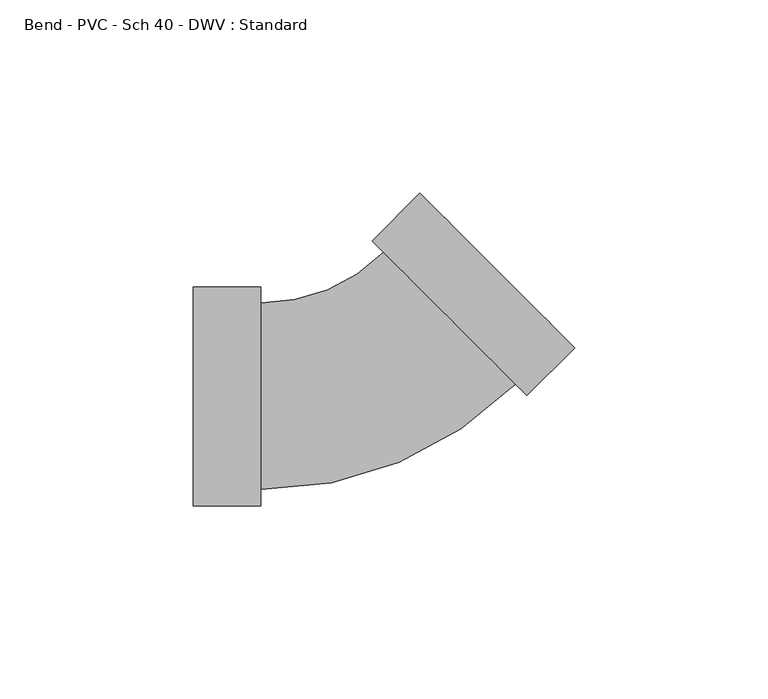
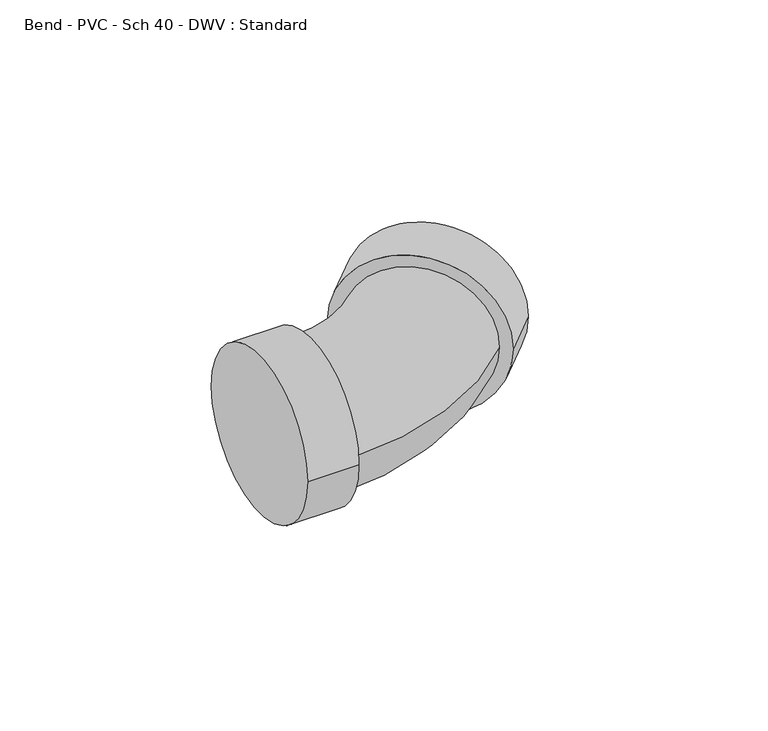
"""IFC4 building model written with IfcOpenShell, lengths in millimetres: pipe fitting geometry, Bend - PVC - Sch 40 - DWV : Standard."""

from ifc_helpers import new_model, si_unit, point, frame, origin, place, context, project, spatial, circle_curve, ellipse_curve, trimmed, source, transform, mapped, element, save
from ifc_brep_helpers import plane_surface, cylinder_surface, revolved_surface, advanced_brep


def bend_pvc_sch_40_dwv_standard_d9dd063d(model_context):
    return source(origin(), model_context, "Body", "AdvancedBrep", [
        advanced_brep(
        [(-46.0248, -28.2829, 0.0), (-46.0248, 28.2829, 0.0), (-28.575, -28.2829, 0.0), (-28.575, 28.2829, 0.0), (-28.575, -24.13, 0.0), (-28.575, 24.13, 0.0), (3.1436839, 37.2680128, 0.0), (37.268113, 3.1424953, 0.0), (40.2046099, 0.2059048, 0.0), (0.207187, 40.2046034, 0.0), (52.5436786, 12.5445799, 0.0), (12.5462557, 52.5432785, 0.0)],
        [
            (0, 1, circle_curve(frame((-46.0248, 0.0, 0.0), z_axis=(-1.0, 0.0, 0.0), x_axis=(0.0, 1.0, 0.0)), 28.2829)),
            (1, 0, circle_curve(frame((-46.0248, 0.0, 0.0), z_axis=(-1.0, 0.0, 0.0), x_axis=(0.0, 1.0, 0.0)), 28.2829)),
            (2, 3, circle_curve(frame((-28.575, 0.0, 0.0), z_axis=(1.0, 0.0, 0.0), x_axis=(0.0, 1.0, 0.0)), 28.2829)),
            (3, 2, circle_curve(frame((-28.575, 0.0, 0.0), z_axis=(1.0, 0.0, 0.0), x_axis=(0.0, 1.0, 0.0)), 28.2829)),
            (4, 5, circle_curve(frame((-28.575, 0.0, 0.0), z_axis=(-1.0, 0.0, 0.0), x_axis=(0.0, 1.0, 0.0)), 24.13)),
            (5, 4, circle_curve(frame((-28.575, 0.0, 0.0), z_axis=(-1.0, 0.0, 0.0), x_axis=(0.0, 1.0, 0.0)), 24.13)),
            (0, 2),
            (3, 1),
            (6, 5, circle_curve(frame((-28.575, 68.9877083, 0.0), z_axis=(0.0, 0.0, -1.0), x_axis=(0.0, -1.0, 0.0)), 44.8577083)),
            (4, 7, circle_curve(frame((-28.575, 68.9877083, 0.0), z_axis=(0.0, 0.0, 1.0), x_axis=(0.0, -1.0, 0.0)), 93.1177083)),
            (7, 6, circle_curve(frame((20.2058985, 20.2052541, 0.0), z_axis=(-0.7071180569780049, -0.7070955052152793, 0.0), x_axis=(-0.7070955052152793, 0.7071180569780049, 0.0)), 24.13)),
            (6, 7, circle_curve(frame((20.2058985, 20.2052541, 0.0), z_axis=(-0.7071180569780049, -0.7070955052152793, 0.0), x_axis=(-0.7070955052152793, 0.7071180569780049, 0.0)), 24.13)),
            (8, 9, circle_curve(frame((20.2058985, 20.2052541, 0.0), z_axis=(-0.7071180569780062, -0.7070955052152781, 0.0), x_axis=(-0.707095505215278, 0.7071180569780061, 0.0)), 28.2829)),
            (9, 8, circle_curve(frame((20.2058985, 20.2052541, 0.0), z_axis=(-0.7071180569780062, -0.7070955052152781, 0.0), x_axis=(-0.707095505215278, 0.7071180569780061, 0.0)), 28.2829)),
            (10, 11, circle_curve(frame((32.5449671, 32.5439292, 0.0), z_axis=(0.7071180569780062, 0.7070955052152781, 0.0), x_axis=(-0.707095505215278, 0.7071180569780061, 0.0)), 28.2829)),
            (11, 10, circle_curve(frame((32.5449671, 32.5439292, 0.0), z_axis=(0.7071180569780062, 0.7070955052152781, 0.0), x_axis=(-0.707095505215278, 0.7071180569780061, 0.0)), 28.2829)),
            (8, 10),
            (11, 9),
        ],
        [
            plane_surface(frame((-46.0248, 0.0, 0.0), z_axis=(-1.0, 0.0, 0.0), x_axis=(0.0, 0.0, 1.0))),
            plane_surface(frame((-28.575, 0.0, 0.0), z_axis=(1.0, 0.0, 0.0), x_axis=(0.0, 0.0, 1.0))),
            cylinder_surface(frame((-46.0248, 0.0, 0.0), z_axis=(-1.0, 0.0, 0.0), x_axis=(0.0, 1.0, 0.0)), 28.2829),
            revolved_surface(trimmed(ellipse_curve(frame((-28.575, 0.0, 0.0), z_axis=(-1.0, 0.0, 0.0), x_axis=(0.0, 1.0, 0.0)), 24.13, 24.13), [point((-28.575, -24.13, 0.0))], [point((-28.575, 24.13, 0.0))], True, "CARTESIAN"), (-28.575, 68.9877083, 0.0), (0.0, 0.0, 1.0)),
            revolved_surface(trimmed(ellipse_curve(frame((-28.575, 0.0, 0.0), z_axis=(-1.0, 0.0, 0.0), x_axis=(0.0, 1.0, 0.0)), 24.13, 24.13), [point((-28.575, 24.13, 0.0))], [point((-28.575, -24.13, 0.0))], True, "CARTESIAN"), (-28.575, 68.9877083, 0.0), (0.0, 0.0, 1.0)),
            plane_surface(frame((20.2058985, 20.2052541, 0.0), z_axis=(-0.7071180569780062, -0.7070955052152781, 0.0), x_axis=(0.0, 0.0, 1.0))),
            plane_surface(frame((32.5449671, 32.5439292, 0.0), z_axis=(0.7071180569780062, 0.7070955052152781, 0.0), x_axis=(0.0, 0.0, 1.0))),
            cylinder_surface(frame((20.2058985, 20.2052541, 0.0), z_axis=(-0.7071180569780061, -0.707095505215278, 0.0), x_axis=(-0.707095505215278, 0.7071180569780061, 0.0)), 28.2829),
        ],
        [
            (0, [[1, 2]]),
            (1, [[3, 4], [5, 6]]),
            (2, [[-1, 7, -4, 8]]),
            (2, [[-2, -8, -3, -7]]),
            (3, [[9, -5, 10, 11]]),
            (4, [[-9, 12, -10, -6]]),
            (5, [[13, 14], [-11, -12]]),
            (6, [[15, 16]]),
            (7, [[-13, 17, -16, 18]]),
            (7, [[-14, -18, -15, -17]]),
        ],
    ),
    ])


if __name__ == "__main__":
    model = new_model("IFC4")
    model_context = context("Model", 3, world=origin())
    ifc_project = project(units=[si_unit("LENGTHUNIT", "METRE", prefix="MILLI")], contexts=[model_context])
    site = spatial("IfcSite", under=ifc_project)
    building = spatial("IfcBuilding", under=site)
    placement = place(None, origin())
    bend_pvc_sch_40_dwv_standard_shape = bend_pvc_sch_40_dwv_standard_d9dd063d(model_context)
    element("IfcPipeFitting", 1, ObjectType="Bend - PVC - Sch 40 - DWV : Standard", at=placement, inside=building, context=model_context, shape_type="MappedRepresentation", body=[
        mapped(bend_pvc_sch_40_dwv_standard_shape, transform((0.0, 0.0, 0.0), x_axis=(1.0, 0.0, 0.0), y_axis=(0.0, 1.0, 0.0), z_axis=(0.0, 0.0, 1.0))),
    ])
    save(model, "model.ifc")
